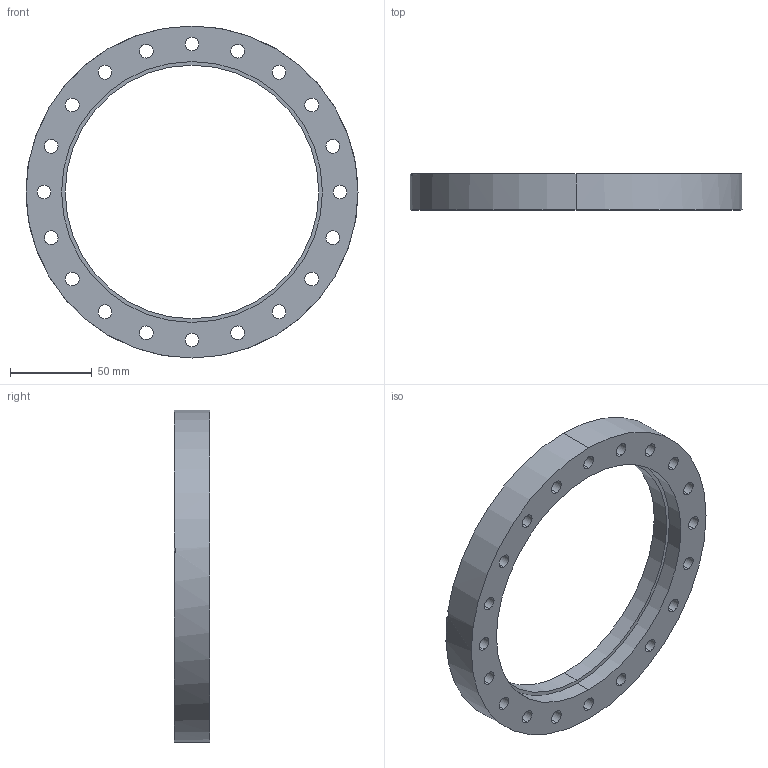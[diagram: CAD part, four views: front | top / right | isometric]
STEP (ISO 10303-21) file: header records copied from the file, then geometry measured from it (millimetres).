
FILE_DESCRIPTION (( 'STEP AP214' ), '1' );
FILE_NAME ('W6CFF160.STEP', '2021-05-14T13:36:05', ( '' ), ( '' ), 'SwSTEP 2.0', 'SolidWorks 2020', '' );
FILE_SCHEMA (( 'AUTOMOTIVE_DESIGN' ));
Length unit declared in the file: millimetre
Products named in the file (1): W6CFF160
Bounding box: 203 x 22 x 203 mm (x, y, z)
Volume: 256476.7 mm3; surface area: 61595.2 mm2
Topology: 1 solids, 1 shells, 65 faces, 176 edges, 114 vertices
Faces by surface type: cylinder 50, torus 6, plane 5, cone 4
Entity records: 2284 total; most frequent: CARTESIAN_POINT 424, DIRECTION 420, ORIENTED_EDGE 352, AXIS2_PLACEMENT_3D 182, EDGE_CURVE 176, CIRCLE 116, VERTEX_POINT 114, EDGE_LOOP 108
